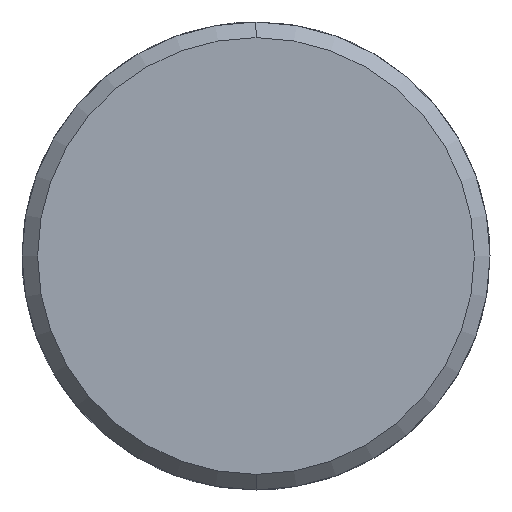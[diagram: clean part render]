
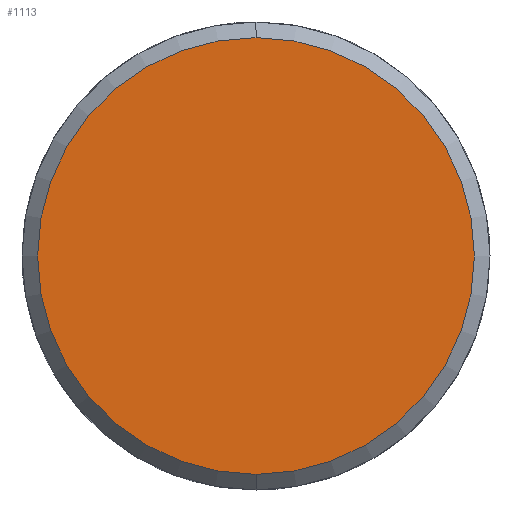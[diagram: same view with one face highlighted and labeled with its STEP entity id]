
A CAD part, left-side view. The second image highlights one B-rep face of the part: STEP entity #1113.
In plain terms, the highlighted planar face has unit normal (-1, 0, 0).
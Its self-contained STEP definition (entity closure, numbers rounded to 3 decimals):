
#1045=CARTESIAN_POINT('Vertex',(-5.,0.,-14.)) ;
#1048=CARTESIAN_POINT('Axis2P3D Location',(-5.,0.,0.)) ;
#1052=CARTESIAN_POINT('Vertex',(-5.,14.,0.)) ;
#1055=CARTESIAN_POINT('Axis2P3D Location',(-5.,0.,0.)) ;
#1059=CARTESIAN_POINT('Vertex',(-5.,0.,14.)) ;
#1081=CARTESIAN_POINT('Axis2P3D Location',(-5.,0.,0.)) ;
#1085=CARTESIAN_POINT('Vertex',(-5.,-14.,0.)) ;
#1088=CARTESIAN_POINT('Axis2P3D Location',(-5.,0.,0.)) ;
#1102=CARTESIAN_POINT('Axis2P3D Location',(-5.,0.,0.)) ;
#1049=DIRECTION('Axis2P3D Direction',(1.,0.,-0.)) ;
#1056=DIRECTION('Axis2P3D Direction',(1.,0.,-0.)) ;
#1082=DIRECTION('Axis2P3D Direction',(1.,0.,-0.)) ;
#1089=DIRECTION('Axis2P3D Direction',(1.,0.,-0.)) ;
#1103=DIRECTION('Axis2P3D Direction',(1.,0.,-0.)) ;
#1104=DIRECTION('Axis2P3D XDirection',(-0.,0.,-1.)) ;
#1050=AXIS2_PLACEMENT_3D('Circle Axis2P3D',#1048,#1049,$) ;
#1057=AXIS2_PLACEMENT_3D('Circle Axis2P3D',#1055,#1056,$) ;
#1083=AXIS2_PLACEMENT_3D('Circle Axis2P3D',#1081,#1082,$) ;
#1090=AXIS2_PLACEMENT_3D('Circle Axis2P3D',#1088,#1089,$) ;
#1105=AXIS2_PLACEMENT_3D('Plane Axis2P3D',#1102,#1103,#1104) ;
#1108=ORIENTED_EDGE('',*,*,#1054,.F.) ;
#1109=ORIENTED_EDGE('',*,*,#1092,.F.) ;
#1110=ORIENTED_EDGE('',*,*,#1087,.F.) ;
#1111=ORIENTED_EDGE('',*,*,#1061,.F.) ;
#1113=ADVANCED_FACE('351-18X26X60',(#1112),#1106,.F.) ;
#1051=CIRCLE('generated circle',#1050,14.) ;
#1058=CIRCLE('generated circle',#1057,14.) ;
#1084=CIRCLE('generated circle',#1083,14.) ;
#1091=CIRCLE('generated circle',#1090,14.) ;
#1054=EDGE_CURVE('',#1046,#1053,#1051,.T.) ;
#1061=EDGE_CURVE('',#1053,#1060,#1058,.T.) ;
#1087=EDGE_CURVE('',#1060,#1086,#1084,.T.) ;
#1092=EDGE_CURVE('',#1086,#1046,#1091,.T.) ;
#1107=EDGE_LOOP('',(#1108,#1109,#1110,#1111)) ;
#1112=FACE_OUTER_BOUND('',#1107,.T.) ;
#1106=PLANE('Plane',#1105) ;
#1046=VERTEX_POINT('',#1045) ;
#1053=VERTEX_POINT('',#1052) ;
#1060=VERTEX_POINT('',#1059) ;
#1086=VERTEX_POINT('',#1085) ;
